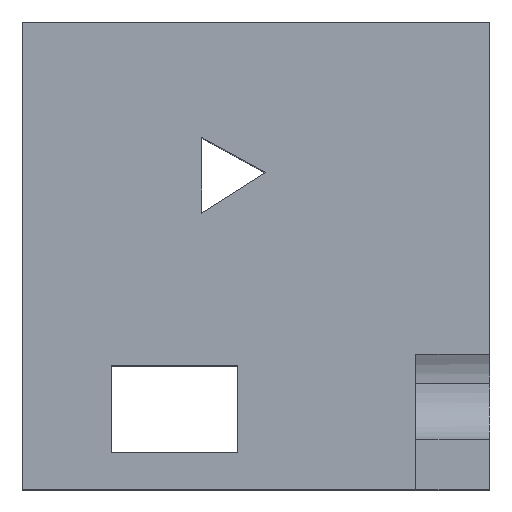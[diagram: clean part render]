
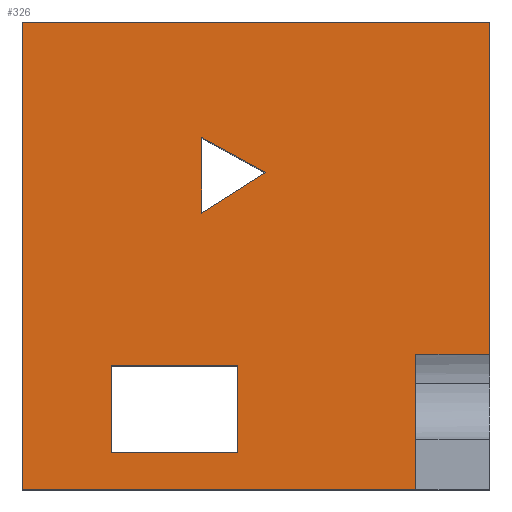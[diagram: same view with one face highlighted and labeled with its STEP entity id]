
A CAD part, top view. The second image highlights one B-rep face of the part: STEP entity #326.
In plain terms, the highlighted planar face has unit normal (0, 0, 1).
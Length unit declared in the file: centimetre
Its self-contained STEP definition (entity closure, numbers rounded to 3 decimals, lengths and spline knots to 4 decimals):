
#7 = VECTOR ( 'NONE', #483, 100. ) ;
#28 = PLANE ( 'NONE',  #156 ) ;
#29 = CARTESIAN_POINT ( 'NONE',  ( 0., 0., 1000. ) ) ;
#31 = DIRECTION ( 'NONE',  ( 0., -1., 0. ) ) ;
#39 = CARTESIAN_POINT ( 'NONE',  ( 0., 1000., 1000. ) ) ;
#54 = EDGE_CURVE ( 'NONE', #818, #205, #63, .T. ) ;
#63 = LINE ( 'NONE', #742, #1049 ) ;
#81 = ORIENTED_EDGE ( 'NONE', *, *, #237, .F. ) ;
#89 = CARTESIAN_POINT ( 'NONE',  ( 383.6839, 752.9925, 1000. ) ) ;
#103 = CARTESIAN_POINT ( 'NONE',  ( 841.9242, 0., 1000. ) ) ;
#129 = EDGE_CURVE ( 'NONE', #847, #1123, #242, .T. ) ;
#132 = LINE ( 'NONE', #463, #7 ) ;
#134 = ORIENTED_EDGE ( 'NONE', *, *, #160, .T. ) ;
#156 = AXIS2_PLACEMENT_3D ( 'NONE', #966, #878, #886 ) ;
#160 = EDGE_CURVE ( 'NONE', #943, #739, #251, .T. ) ;
#174 = EDGE_LOOP ( 'NONE', ( #763, #474, #577, #395, #134, #633 ) ) ;
#178 = DIRECTION ( 'NONE',  ( 0., -1., 0. ) ) ;
#186 = LINE ( 'NONE', #529, #882 ) ;
#205 = VERTEX_POINT ( 'NONE', #371 ) ;
#217 = ORIENTED_EDGE ( 'NONE', *, *, #1101, .T. ) ;
#232 = VERTEX_POINT ( 'NONE', #640 ) ;
#237 = EDGE_CURVE ( 'NONE', #572, #728, #548, .T. ) ;
#242 = LINE ( 'NONE', #1036, #716 ) ;
#243 = VERTEX_POINT ( 'NONE', #799 ) ;
#251 = LINE ( 'NONE', #433, #686 ) ;
#262 = VECTOR ( 'NONE', #475, 100. ) ;
#276 = LINE ( 'NONE', #992, #262 ) ;
#298 = CARTESIAN_POINT ( 'NONE',  ( 383.6839, 752.9925, 1000. ) ) ;
#300 = EDGE_CURVE ( 'NONE', #818, #232, #186, .T. ) ;
#322 = LINE ( 'NONE', #1021, #845 ) ;
#326 = ADVANCED_FACE ( 'NONE', ( #974, #451, #632 ), #28, .T. ) ;
#345 = DIRECTION ( 'NONE',  ( 0., -1., 0. ) ) ;
#347 = CARTESIAN_POINT ( 'NONE',  ( 0., 1000., 1000. ) ) ;
#358 = EDGE_CURVE ( 'NONE', #205, #243, #1067, .T. ) ;
#371 = CARTESIAN_POINT ( 'NONE',  ( 841.9242, 289.2697, 1000. ) ) ;
#395 = ORIENTED_EDGE ( 'NONE', *, *, #616, .T. ) ;
#401 = LINE ( 'NONE', #835, #701 ) ;
#433 = CARTESIAN_POINT ( 'NONE',  ( 0., 1000., 1000. ) ) ;
#437 = DIRECTION ( 'NONE',  ( -1., 0., 0. ) ) ;
#451 = FACE_OUTER_BOUND ( 'NONE', #174, .T. ) ;
#458 = DIRECTION ( 'NONE',  ( -0.877, 0.48, 0. ) ) ;
#463 = CARTESIAN_POINT ( 'NONE',  ( 190.089, 78.2806, 1000. ) ) ;
#474 = ORIENTED_EDGE ( 'NONE', *, *, #54, .F. ) ;
#475 = DIRECTION ( 'NONE',  ( 0., 1., 0. ) ) ;
#477 = CARTESIAN_POINT ( 'NONE',  ( 461.3667, 78.2806, 1000. ) ) ;
#483 = DIRECTION ( 'NONE',  ( -1., 0., 0. ) ) ;
#497 = VERTEX_POINT ( 'NONE', #996 ) ;
#508 = VERTEX_POINT ( 'NONE', #1077 ) ;
#519 = VECTOR ( 'NONE', #178, 100. ) ;
#529 = CARTESIAN_POINT ( 'NONE',  ( 1000., 1000., 1000. ) ) ;
#539 = DIRECTION ( 'NONE',  ( 0., 1., 0. ) ) ;
#548 = LINE ( 'NONE', #723, #736 ) ;
#552 = DIRECTION ( 'NONE',  ( 0., -1., 0. ) ) ;
#572 = VERTEX_POINT ( 'NONE', #962 ) ;
#577 = ORIENTED_EDGE ( 'NONE', *, *, #300, .T. ) ;
#596 = VECTOR ( 'NONE', #552, 100. ) ;
#597 = DIRECTION ( 'NONE',  ( 1., 0., 0. ) ) ;
#598 = ORIENTED_EDGE ( 'NONE', *, *, #825, .T. ) ;
#615 = EDGE_CURVE ( 'NONE', #728, #1103, #881, .T. ) ;
#616 = EDGE_CURVE ( 'NONE', #232, #943, #695, .T. ) ;
#632 = FACE_BOUND ( 'NONE', #786, .T. ) ;
#633 = ORIENTED_EDGE ( 'NONE', *, *, #920, .T. ) ;
#640 = CARTESIAN_POINT ( 'NONE',  ( 1000., 1000., 1000. ) ) ;
#653 = EDGE_LOOP ( 'NONE', ( #827, #81, #762 ) ) ;
#670 = LINE ( 'NONE', #477, #1053 ) ;
#673 = DIRECTION ( 'NONE',  ( 1., 0., 0. ) ) ;
#686 = VECTOR ( 'NONE', #345, 100. ) ;
#695 = LINE ( 'NONE', #347, #970 ) ;
#701 = VECTOR ( 'NONE', #841, 100. ) ;
#716 = VECTOR ( 'NONE', #597, 100. ) ;
#723 = CARTESIAN_POINT ( 'NONE',  ( 520.7088, 678.0546, 1000. ) ) ;
#725 = EDGE_CURVE ( 'NONE', #508, #847, #276, .T. ) ;
#728 = VERTEX_POINT ( 'NONE', #298 ) ;
#736 = VECTOR ( 'NONE', #458, 100. ) ;
#739 = VERTEX_POINT ( 'NONE', #29 ) ;
#742 = CARTESIAN_POINT ( 'NONE',  ( 841.9242, 289.2697, 1000. ) ) ;
#760 = CARTESIAN_POINT ( 'NONE',  ( 383.6839, 590.5962, 1000. ) ) ;
#762 = ORIENTED_EDGE ( 'NONE', *, *, #865, .F. ) ;
#763 = ORIENTED_EDGE ( 'NONE', *, *, #358, .F. ) ;
#786 = EDGE_LOOP ( 'NONE', ( #867, #905, #217, #598 ) ) ;
#799 = CARTESIAN_POINT ( 'NONE',  ( 841.9242, 0., 1000. ) ) ;
#818 = VERTEX_POINT ( 'NONE', #914 ) ;
#825 = EDGE_CURVE ( 'NONE', #497, #508, #132, .T. ) ;
#827 = ORIENTED_EDGE ( 'NONE', *, *, #615, .F. ) ;
#835 = CARTESIAN_POINT ( 'NONE',  ( 383.6839, 590.5962, 1000. ) ) ;
#841 = DIRECTION ( 'NONE',  ( 0.843, 0.538, 0. ) ) ;
#845 = VECTOR ( 'NONE', #673, 100. ) ;
#847 = VERTEX_POINT ( 'NONE', #1059 ) ;
#865 = EDGE_CURVE ( 'NONE', #1103, #572, #401, .T. ) ;
#867 = ORIENTED_EDGE ( 'NONE', *, *, #725, .T. ) ;
#878 = DIRECTION ( 'NONE',  ( 0., 0., 1. ) ) ;
#881 = LINE ( 'NONE', #89, #519 ) ;
#882 = VECTOR ( 'NONE', #539, 100. ) ;
#886 = DIRECTION ( 'NONE',  ( 1., 0., 0. ) ) ;
#905 = ORIENTED_EDGE ( 'NONE', *, *, #129, .T. ) ;
#914 = CARTESIAN_POINT ( 'NONE',  ( 1000., 289.2697, 1000. ) ) ;
#920 = EDGE_CURVE ( 'NONE', #739, #243, #322, .T. ) ;
#943 = VERTEX_POINT ( 'NONE', #39 ) ;
#957 = CARTESIAN_POINT ( 'NONE',  ( 461.3667, 263.7847, 1000. ) ) ;
#962 = CARTESIAN_POINT ( 'NONE',  ( 520.7088, 678.0546, 1000. ) ) ;
#966 = CARTESIAN_POINT ( 'NONE',  ( 0., 0., 1000. ) ) ;
#970 = VECTOR ( 'NONE', #437, 100. ) ;
#974 = FACE_BOUND ( 'NONE', #653, .T. ) ;
#992 = CARTESIAN_POINT ( 'NONE',  ( 190.089, 78.2806, 1000. ) ) ;
#996 = CARTESIAN_POINT ( 'NONE',  ( 461.3667, 78.2806, 1000. ) ) ;
#1021 = CARTESIAN_POINT ( 'NONE',  ( 0., 0., 1000. ) ) ;
#1036 = CARTESIAN_POINT ( 'NONE',  ( 190.089, 263.7847, 1000. ) ) ;
#1049 = VECTOR ( 'NONE', #1086, 100. ) ;
#1053 = VECTOR ( 'NONE', #31, 100. ) ;
#1059 = CARTESIAN_POINT ( 'NONE',  ( 190.089, 263.7847, 1000. ) ) ;
#1067 = LINE ( 'NONE', #103, #596 ) ;
#1077 = CARTESIAN_POINT ( 'NONE',  ( 190.089, 78.2806, 1000. ) ) ;
#1086 = DIRECTION ( 'NONE',  ( -1., 0., 0. ) ) ;
#1101 = EDGE_CURVE ( 'NONE', #1123, #497, #670, .T. ) ;
#1103 = VERTEX_POINT ( 'NONE', #760 ) ;
#1123 = VERTEX_POINT ( 'NONE', #957 ) ;
